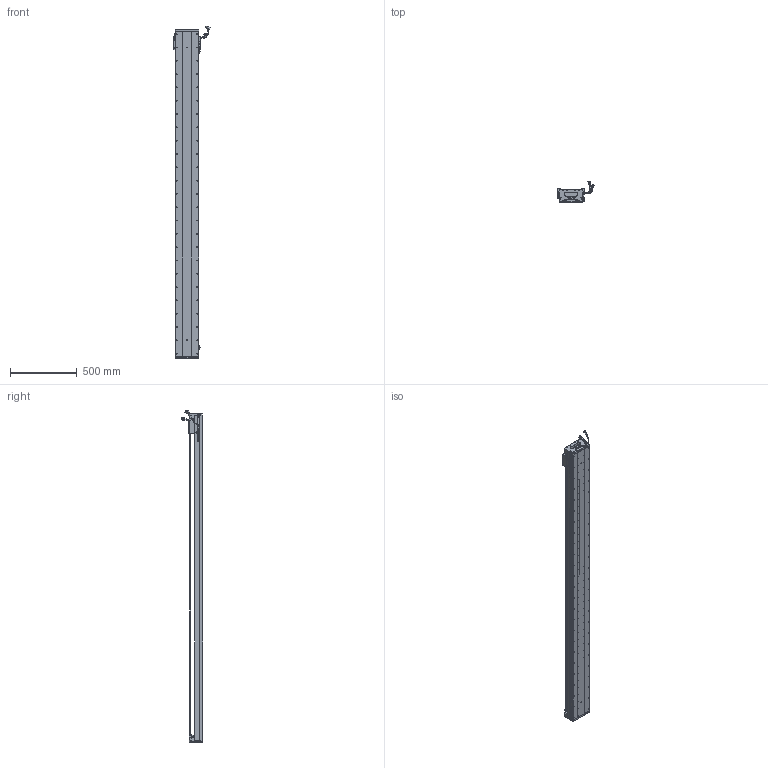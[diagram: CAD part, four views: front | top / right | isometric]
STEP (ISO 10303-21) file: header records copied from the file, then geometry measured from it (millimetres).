
FILE_DESCRIPTION (( 'STEP AP203' ), '1' );
FILE_NAME ('Z1-RY170D-1-L500-B-K.SLDASM_2250.step', '2021-05-17T08:55:06', ( '盈信电脑' ), ( '东莞市道滘镇水果街19号' ), 'SwSTEP 2.0', 'SolidWorks 2016', '' );
FILE_SCHEMA (( 'CONFIG_CONTROL_DESIGN' ));
Length unit declared in the file: millimetre
Products named in the file (36): Z1-RY170-L500詩湍145mm遵_2250; SEAL-Part-1; SHIELDPLATE; 140蚥薯蝶輸; 140雄赽晤鎢ん堤盄; Z1-RY170-L500耀郪菁釱_2250; SCREW-M1.7-1; SCALE-Part-1; SCREW-M1.6-1; PSLH080_PSLF2; HOLDER0; 覜茼ん672; 榋妏寠巭燃_暯_M2_2; HARNESS-Part-2; LABEL-Part-1; SCREW-M1.6; Z-170詩湍傷裔啣; 170-Z-臏賑輸盄裔(21遴); SCALE; Z1-RY170臏賑輸(21遴); 080黍杅芛假蚾釱21遴; SEAL; SCREW-M1.6-2; Z-RY170詩湍奻揤裔; SCREW-M1.7; COVER; Z1-RY170D-1-L500-B-K.SLDASM_2250; RY170直线电机感应器672光电感应片; PBU_SHEET; SCREW-M1.6-3; COVER-Part-1; LABEL; HARNESS; SCALE-Part-2; Z-RY170詩湍狟揤裔; HARNESS-Part-1
Assembly tree (41 placements, depth 4):
  Z1-RY170D-1-L500-B-K.SLDASM_2250
    Z1-RY170-L500耀郪菁釱_2250
    RY170直线电机感应器672光电感应片
    Z1-RY170臏賑輸(21遴)
    覜茼ん672  x3
    PSLH080_PSLF2
      SCALE
        SCALE-Part-1
        SCALE-Part-2
      HARNESS
        HARNESS-Part-1
        HARNESS-Part-2
      LABEL
        LABEL-Part-1
      COVER
        COVER-Part-1
      SEAL
        SEAL-Part-1
      榋妏寠巭燃_暯_M2_2
      SHIELDPLATE
      SCREW-M1.7
      SCREW-M1.7-1
      PBU_SHEET
      SCREW-M1.6
      SCREW-M1.6-1
      SCREW-M1.6-2
      SCREW-M1.6-3
      HOLDER0
    080黍杅芛假蚾釱21遴
    Z1-RY170-L500詩湍145mm遵_2250
    Z-170詩湍傷裔啣  x2
    Z-RY170詩湍奻揤裔  x2
    Z-RY170詩湍狟揤裔  x2
    140蚥薯蝶輸  x2
    170-Z-臏賑輸盄裔(21遴)
    140雄赽晤鎢ん堤盄
Bounding box: 275.34 x 158.11 x 2493.72 mm (x, y, z)
Volume: 11972734.2 mm3; surface area: 2995959.4 mm2
Topology: 36 solids, 36 shells, 3910 faces, 10857 edges, 6791 vertices
Faces by surface type: cylinder 1964, plane 1288, cone 536, torus 69, bspline 53
Entity records: 123125 total; most frequent: CARTESIAN_POINT 34688, ORIENTED_EDGE 18214, DIRECTION 16883, EDGE_CURVE 9107, AXIS2_PLACEMENT_3D 6200, VERTEX_POINT 5909, VECTOR 4483, LINE 4483
